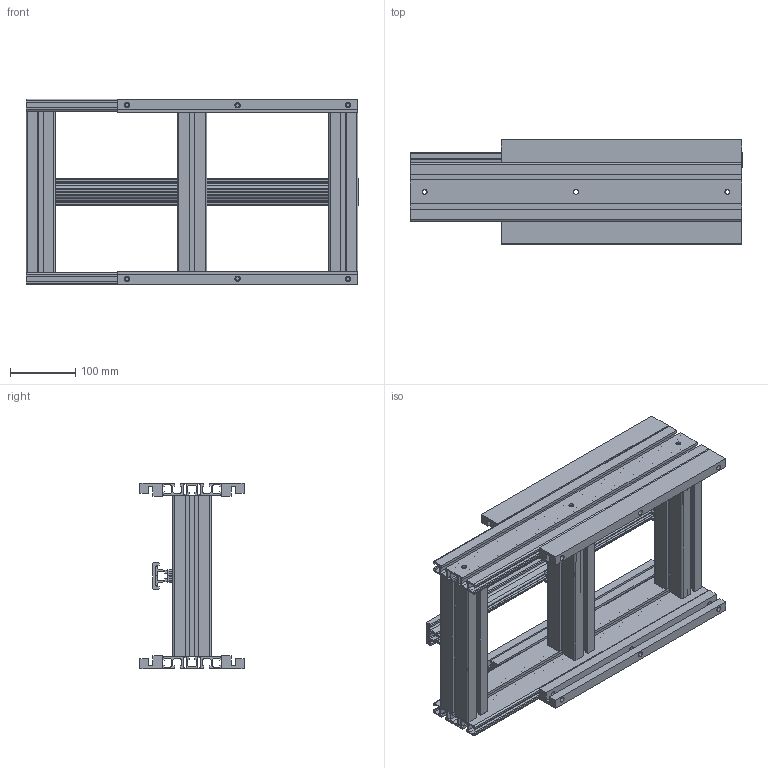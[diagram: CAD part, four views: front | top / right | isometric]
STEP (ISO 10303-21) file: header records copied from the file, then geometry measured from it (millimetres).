
FILE_DESCRIPTION (( 'STEP AP203' ), '1' );
FILE_NAME ('3000.250.102.STEP', '2018-02-28T10:53:36', ( 'Localadmin' ), ( 'Microsoft' ), 'SwSTEP 2.0', 'SolidWorks 2016', '' );
FILE_SCHEMA (( 'CONFIG_CONTROL_DESIGN' ));
Length unit declared in the file: millimetre
Products named in the file (1): 3000.250.102
Bounding box: 510 x 160 x 285 mm (x, y, z)
Volume: 2587036.9 mm3; surface area: 1590758.9 mm2
Topology: 15 solids, 15 shells, 839 faces, 2400 edges, 1600 vertices
Faces by surface type: plane 515, cylinder 320, cone 4
Entity records: 27761 total; most frequent: CARTESIAN_POINT 4876, ORIENTED_EDGE 4800, DIRECTION 4722, EDGE_CURVE 2400, LINE 1734, VECTOR 1734, VERTEX_POINT 1600, AXIS2_PLACEMENT_3D 1494
